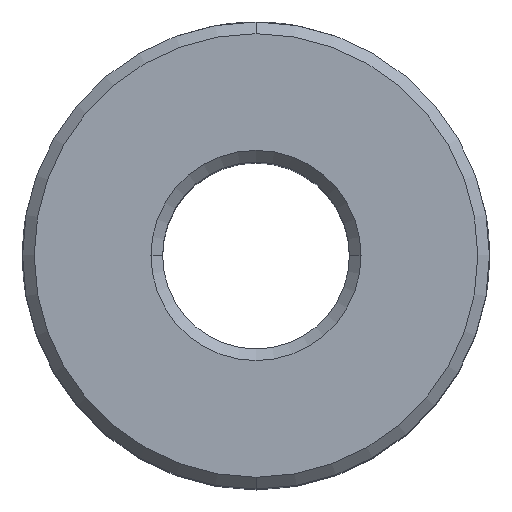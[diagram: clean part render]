
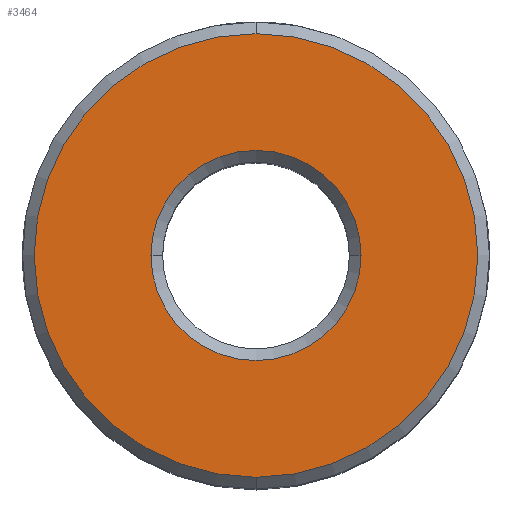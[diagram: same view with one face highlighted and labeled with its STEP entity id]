
A CAD part, top view. The second image highlights one B-rep face of the part: STEP entity #3464.
In plain terms, the highlighted planar face has unit normal (0, 0, 1).
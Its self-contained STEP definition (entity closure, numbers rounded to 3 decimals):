
#1=CARTESIAN_POINT('',(3310.815,2229.558,0.));
#2=DIRECTION('',(0.,0.,-1.));
#3=DIRECTION('',(-1.,0.,0.));
#4=AXIS2_PLACEMENT_3D('',#1,#2,#3);
#6=CARTESIAN_POINT('',(3310.815,2229.558,0.));
#7=DIRECTION('',(0.,0.,-1.));
#8=DIRECTION('',(1.,0.,0.));
#9=AXIS2_PLACEMENT_3D('',#6,#7,#8);
#11=CARTESIAN_POINT('',(3310.815,2229.558,0.));
#12=DIRECTION('',(0.,0.,1.));
#13=DIRECTION('',(0.,1.,0.));
#14=AXIS2_PLACEMENT_3D('',#11,#12,#13);
#24=CARTESIAN_POINT('',(3310.815,2229.558,0.));
#25=DIRECTION('',(0.,0.,-1.));
#26=DIRECTION('',(0.,1.,0.));
#27=AXIS2_PLACEMENT_3D('',#24,#25,#26);
#2779=CARTESIAN_POINT('',(3310.815,2239.058,0.));
#2781=VERTEX_POINT('',#2779);
#2791=CARTESIAN_POINT('',(3310.815,2220.058,0.));
#2793=VERTEX_POINT('',#2791);
#3431=CARTESIAN_POINT('',(3306.315,2229.558,0.));
#3432=CARTESIAN_POINT('',(3315.315,2229.558,0.));
#3433=VERTEX_POINT('',#3431);
#3434=VERTEX_POINT('',#3432);
#3447=CARTESIAN_POINT('',(0.,0.,0.));
#3448=DIRECTION('',(0.,0.,-1.));
#3449=DIRECTION('',(-1.,0.,0.));
#3450=AXIS2_PLACEMENT_3D('',#3447,#3448,#3449);
#3451=PLANE('',#3450);
#3453=ORIENTED_EDGE('',*,*,#3452,.F.);
#3455=ORIENTED_EDGE('',*,*,#3454,.T.);
#3456=EDGE_LOOP('',(#3453,#3455));
#3457=FACE_OUTER_BOUND('',#3456,.F.);
#3459=ORIENTED_EDGE('',*,*,#3458,.F.);
#3461=ORIENTED_EDGE('',*,*,#3460,.F.);
#3462=EDGE_LOOP('',(#3459,#3461));
#3463=FACE_BOUND('',#3462,.F.);
#3464=ADVANCED_FACE('',(#3457,#3463),#3451,.F.);
#5=CIRCLE('',#4,4.5);
#10=CIRCLE('',#9,4.5);
#15=CIRCLE('',#14,9.5);
#28=CIRCLE('',#27,9.5);
#3452=EDGE_CURVE('',#2781,#2793,#15,.T.);
#3454=EDGE_CURVE('',#2781,#2793,#28,.T.);
#3458=EDGE_CURVE('',#3433,#3434,#5,.T.);
#3460=EDGE_CURVE('',#3434,#3433,#10,.T.);
